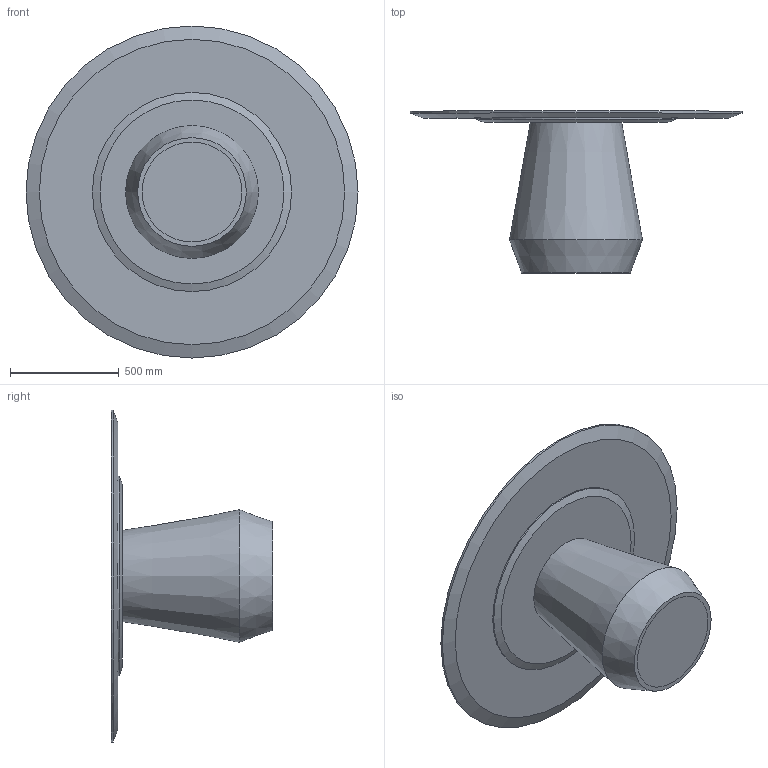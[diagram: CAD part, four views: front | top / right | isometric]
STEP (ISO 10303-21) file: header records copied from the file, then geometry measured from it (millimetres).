
FILE_DESCRIPTION(/* description */ ('','CAx-IF Rec.Pracs.---Representation and Presentation of Product Manufacturing Information (PMI)---4.0---2014-10-13'),/* implementation_level */ '2;1');
FILE_NAME(/* name */ 'TABLE_GRADIENT 3.stp',/* time_stamp */ '2024-12-07T16:32:28-05:00',/* author */ ('mbowman'),/* organization */ (''),/* preprocessor_version */ 'ST-DEVELOPER v19.2',/* originating_system */ 'Autodesk Inventor 2023',/* authorisation */ '');
FILE_SCHEMA (('AP242_MANAGED_MODEL_BASED_3D_ENGINEERING_MIM_LF { 1 0 10303 442 1 1 4 }'));
Length unit declared in the file: inch
Products named in the file (2): GRADIENT^TABLE 3_RADIUS DBL DRUM BASE-60 ROUND TOP; GRADIENT^TABLE 3_RADIUS DBL DRUM BASE-60 ROUND TOP_1
Assembly tree (1 placements, depth 2):
  GRADIENT^TABLE 3_RADIUS DBL DRUM BASE-60 ROUND TOP
    GRADIENT^TABLE 3_RADIUS DBL DRUM BASE-60 ROUND TOP_1
Bounding box: 1524 x 742.95 x 1524 mm (x, y, z)
Volume: 94630055.6 mm3; surface area: 8064463.5 mm2
Topology: 6 solids, 6 shells, 22 faces, 32 edges, 20 vertices
Faces by surface type: cone 10, plane 10, cylinder 2
Full cylindrical faces by diameter (mm): 914.4 x1, 1524 x1
Entity records: 686 total; most frequent: DIRECTION 114, CARTESIAN_POINT 114, ORIENTED_EDGE 64, AXIS2_PLACEMENT_3D 51, EDGE_CURVE 32, STYLED_ITEM 28, EDGE_LOOP 24, FACE_OUTER_BOUND 22
